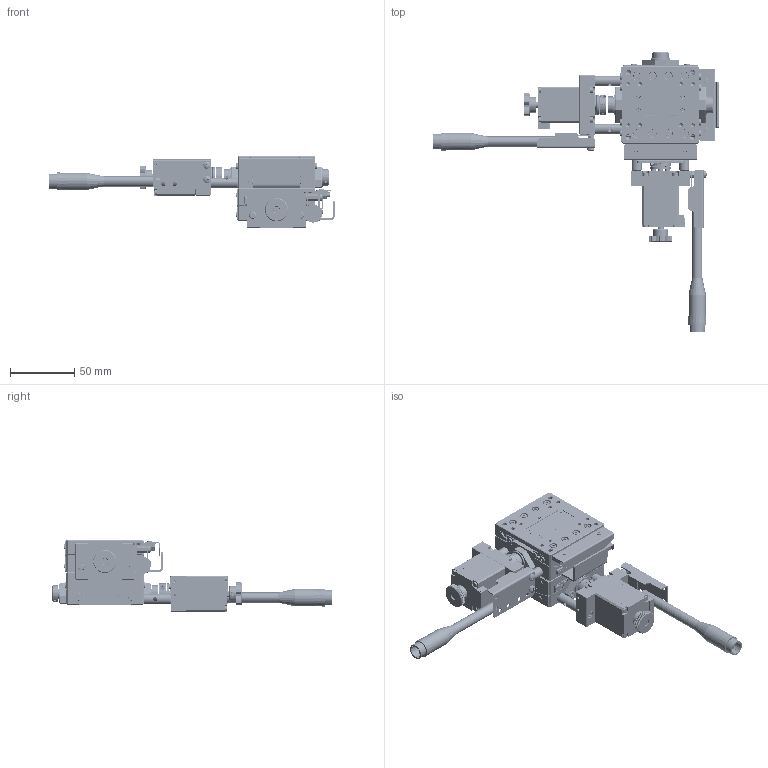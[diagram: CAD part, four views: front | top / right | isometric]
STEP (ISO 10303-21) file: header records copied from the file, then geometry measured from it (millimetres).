
FILE_DESCRIPTION (( 'STEP AP214' ), '1' );
FILE_NAME ('TBA6050-L1-M28L.STEP', '2025-01-03T08:20:21', ( '' ), ( '' ), 'SwSTEP 2.0', 'SolidWorks 2020', '' );
FILE_SCHEMA (( 'AUTOMOTIVE_DESIGN' ));
Length unit declared in the file: millimetre
Products named in the file (3): TAA6050-L1-M28L; TBA6050-L1-M28L; TAA6075-L1-M28L
Assembly tree (2 placements, depth 2):
  TBA6050-L1-M28L
    TAA6050-L1-M28L
    TAA6075-L1-M28L
Bounding box: 221.08 x 217.08 x 55.5 mm (x, y, z)
Volume: 254972.4 mm3; surface area: 139878.9 mm2
Topology: 50 solids, 246 shells, 8056 faces, 20209 edges, 12741 vertices
Faces by surface type: plane 4058, cylinder 2229, cone 746, bspline 500, torus 431, sphere 92
Entity records: 289003 total; most frequent: CARTESIAN_POINT 98148, ORIENTED_EDGE 39638, DIRECTION 38634, EDGE_CURVE 19819, AXIS2_PLACEMENT_3D 13616, VERTEX_POINT 12769, VECTOR 11402, LINE 11402
